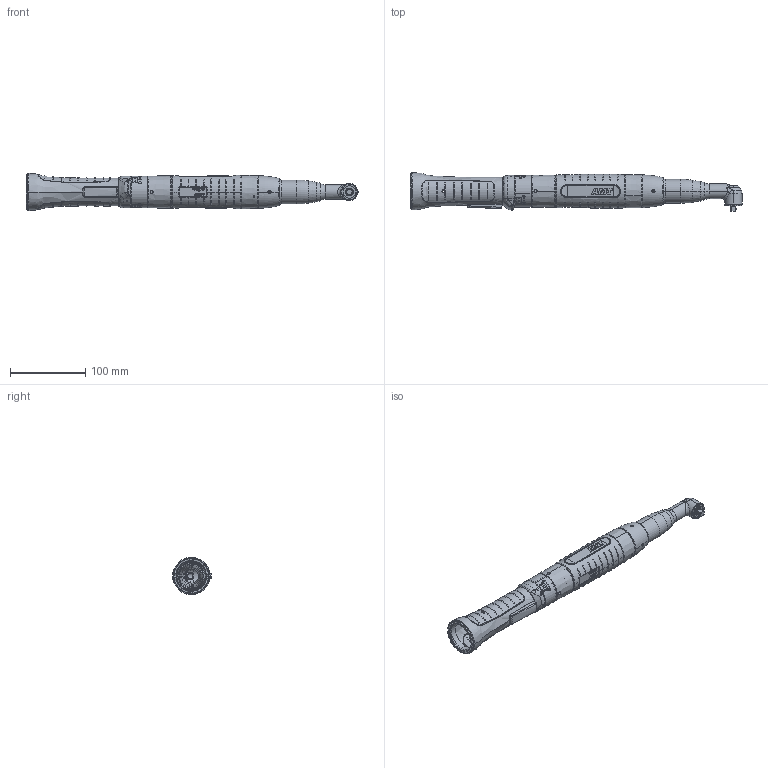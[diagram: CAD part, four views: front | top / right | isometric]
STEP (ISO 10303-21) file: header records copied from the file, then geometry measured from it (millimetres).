
FILE_DESCRIPTION (( 'STEP AP214' ), '1' );
FILE_NAME ('7900174_HCX1015WV14_Standard.STEP', '2012-02-07T15:57:09', ( ' ' ), ( '' ), 'SwSTEP 2.0', 'SolidWorks 2009', '' );
FILE_SCHEMA (( 'AUTOMOTIVE_DESIGN' ));
Length unit declared in the file: millimetre
Products named in the file (1): 7900174_HCX1015WV14_Standard
Bounding box: 441.1 x 51.43 x 49.46 mm (x, y, z)
Surface area: 69324.6 mm2 (no closed solid volume)
Topology: 0 solids, 35 shells, 933 faces, 3241 edges, 2221 vertices
Faces by surface type: plane 245, torus 232, bspline 220, cylinder 190, cone 42, sphere 4
Entity records: 61482 total; most frequent: CARTESIAN_POINT 26303, ORIENTED_EDGE 5139, DIRECTION 4700, EDGE_CURVE 3230, VERTEX_POINT 2219, AXIS2_PLACEMENT_3D 1942, CIRCLE 1228, B_SPLINE_CURVE_WITH_KNOTS 1041
